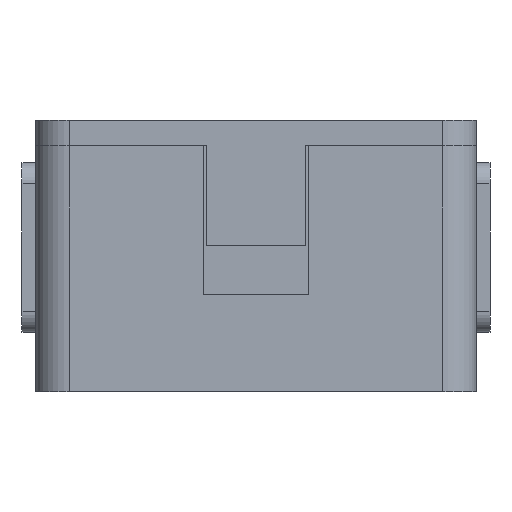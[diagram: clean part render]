
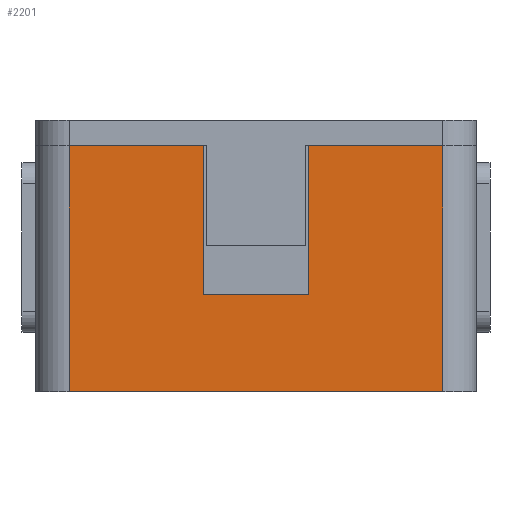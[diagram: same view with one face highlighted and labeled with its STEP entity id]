
A CAD part, left-side view. The second image highlights one B-rep face of the part: STEP entity #2201.
In plain terms, the highlighted planar face has unit normal (-1, 0, 0).
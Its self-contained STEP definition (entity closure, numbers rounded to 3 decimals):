
#82 = PLANE('',#83);
#83 = AXIS2_PLACEMENT_3D('',#84,#85,#86);
#84 = CARTESIAN_POINT('',(0.,0.,0.));
#85 = DIRECTION('',(0.,0.,1.));
#86 = DIRECTION('',(1.,0.,-0.));
#110 = CYLINDRICAL_SURFACE('',#111,4.);
#111 = AXIS2_PLACEMENT_3D('',#112,#113,#114);
#112 = CARTESIAN_POINT('',(-27.,-22.,0.));
#113 = DIRECTION('',(0.,0.,1.));
#114 = DIRECTION('',(0.,-1.,0.));
#138 = PLANE('',#139);
#139 = AXIS2_PLACEMENT_3D('',#140,#141,#142);
#140 = CARTESIAN_POINT('',(0.,0.,29.));
#141 = DIRECTION('',(0.,0.,1.));
#142 = DIRECTION('',(1.,0.,-0.));
#586 = VERTEX_POINT('',#587);
#587 = CARTESIAN_POINT('',(-31.,22.,0.));
#602 = CYLINDRICAL_SURFACE('',#603,4.);
#603 = AXIS2_PLACEMENT_3D('',#604,#605,#606);
#604 = CARTESIAN_POINT('',(-27.,22.,0.));
#605 = DIRECTION('',(0.,0.,1.));
#606 = DIRECTION('',(-0.,1.,0.));
#614 = EDGE_CURVE('',#586,#615,#617,.T.);
#615 = VERTEX_POINT('',#616);
#616 = CARTESIAN_POINT('',(-31.,-22.,0.));
#617 = SURFACE_CURVE('',#618,(#622,#629),.PCURVE_S1.);
#618 = LINE('',#619,#620);
#619 = CARTESIAN_POINT('',(-31.,26.,0.));
#620 = VECTOR('',#621,1.);
#621 = DIRECTION('',(0.,-1.,0.));
#622 = PCURVE('',#82,#623);
#623 = DEFINITIONAL_REPRESENTATION('',(#624),#628);
#624 = LINE('',#625,#626);
#625 = CARTESIAN_POINT('',(-31.,26.));
#626 = VECTOR('',#627,1.);
#627 = DIRECTION('',(0.,-1.));
#628 = ( GEOMETRIC_REPRESENTATION_CONTEXT(2) 
PARAMETRIC_REPRESENTATION_CONTEXT() REPRESENTATION_CONTEXT('2D SPACE',''
  ) );
#629 = PCURVE('',#630,#635);
#630 = PLANE('',#631);
#631 = AXIS2_PLACEMENT_3D('',#632,#633,#634);
#632 = CARTESIAN_POINT('',(-31.,26.,0.));
#633 = DIRECTION('',(1.,0.,-0.));
#634 = DIRECTION('',(0.,-1.,0.));
#635 = DEFINITIONAL_REPRESENTATION('',(#636),#640);
#636 = LINE('',#637,#638);
#637 = CARTESIAN_POINT('',(0.,0.));
#638 = VECTOR('',#639,1.);
#639 = DIRECTION('',(1.,0.));
#640 = ( GEOMETRIC_REPRESENTATION_CONTEXT(2) 
PARAMETRIC_REPRESENTATION_CONTEXT() REPRESENTATION_CONTEXT('2D SPACE',''
  ) );
#672 = EDGE_CURVE('',#615,#673,#675,.T.);
#673 = VERTEX_POINT('',#674);
#674 = CARTESIAN_POINT('',(-31.,-22.,29.));
#675 = SURFACE_CURVE('',#676,(#680,#687),.PCURVE_S1.);
#676 = LINE('',#677,#678);
#677 = CARTESIAN_POINT('',(-31.,-22.,0.));
#678 = VECTOR('',#679,1.);
#679 = DIRECTION('',(0.,0.,1.));
#680 = PCURVE('',#110,#681);
#681 = DEFINITIONAL_REPRESENTATION('',(#682),#686);
#682 = LINE('',#683,#684);
#683 = CARTESIAN_POINT('',(-1.571,0.));
#684 = VECTOR('',#685,1.);
#685 = DIRECTION('',(-0.,1.));
#686 = ( GEOMETRIC_REPRESENTATION_CONTEXT(2) 
PARAMETRIC_REPRESENTATION_CONTEXT() REPRESENTATION_CONTEXT('2D SPACE',''
  ) );
#687 = PCURVE('',#630,#688);
#688 = DEFINITIONAL_REPRESENTATION('',(#689),#693);
#689 = LINE('',#690,#691);
#690 = CARTESIAN_POINT('',(48.,0.));
#691 = VECTOR('',#692,1.);
#692 = DIRECTION('',(0.,-1.));
#693 = ( GEOMETRIC_REPRESENTATION_CONTEXT(2) 
PARAMETRIC_REPRESENTATION_CONTEXT() REPRESENTATION_CONTEXT('2D SPACE',''
  ) );
#849 = VERTEX_POINT('',#850);
#850 = CARTESIAN_POINT('',(-31.,22.,29.));
#872 = EDGE_CURVE('',#849,#873,#875,.T.);
#873 = VERTEX_POINT('',#874);
#874 = CARTESIAN_POINT('',(-31.,6.2,29.));
#875 = SURFACE_CURVE('',#876,(#880,#887),.PCURVE_S1.);
#876 = LINE('',#877,#878);
#877 = CARTESIAN_POINT('',(-31.,26.,29.));
#878 = VECTOR('',#879,1.);
#879 = DIRECTION('',(0.,-1.,0.));
#880 = PCURVE('',#138,#881);
#881 = DEFINITIONAL_REPRESENTATION('',(#882),#886);
#882 = LINE('',#883,#884);
#883 = CARTESIAN_POINT('',(-31.,26.));
#884 = VECTOR('',#885,1.);
#885 = DIRECTION('',(0.,-1.));
#886 = ( GEOMETRIC_REPRESENTATION_CONTEXT(2) 
PARAMETRIC_REPRESENTATION_CONTEXT() REPRESENTATION_CONTEXT('2D SPACE',''
  ) );
#887 = PCURVE('',#630,#888);
#888 = DEFINITIONAL_REPRESENTATION('',(#889),#893);
#889 = LINE('',#890,#891);
#890 = CARTESIAN_POINT('',(0.,-29.));
#891 = VECTOR('',#892,1.);
#892 = DIRECTION('',(1.,0.));
#893 = ( GEOMETRIC_REPRESENTATION_CONTEXT(2) 
PARAMETRIC_REPRESENTATION_CONTEXT() REPRESENTATION_CONTEXT('2D SPACE',''
  ) );
#911 = PLANE('',#912);
#912 = AXIS2_PLACEMENT_3D('',#913,#914,#915);
#913 = CARTESIAN_POINT('',(-34.,6.2,11.4));
#914 = DIRECTION('',(0.,1.,0.));
#915 = DIRECTION('',(0.,0.,1.));
#1277 = VERTEX_POINT('',#1278);
#1278 = CARTESIAN_POINT('',(-31.,-6.2,29.));
#1292 = PLANE('',#1293);
#1293 = AXIS2_PLACEMENT_3D('',#1294,#1295,#1296);
#1294 = CARTESIAN_POINT('',(-34.,-6.2,11.4));
#1295 = DIRECTION('',(0.,1.,0.));
#1296 = DIRECTION('',(0.,0.,1.));
#1303 = EDGE_CURVE('',#1277,#673,#1304,.T.);
#1304 = SURFACE_CURVE('',#1305,(#1309,#1316),.PCURVE_S1.);
#1305 = LINE('',#1306,#1307);
#1306 = CARTESIAN_POINT('',(-31.,26.,29.));
#1307 = VECTOR('',#1308,1.);
#1308 = DIRECTION('',(0.,-1.,0.));
#1309 = PCURVE('',#138,#1310);
#1310 = DEFINITIONAL_REPRESENTATION('',(#1311),#1315);
#1311 = LINE('',#1312,#1313);
#1312 = CARTESIAN_POINT('',(-31.,26.));
#1313 = VECTOR('',#1314,1.);
#1314 = DIRECTION('',(0.,-1.));
#1315 = ( GEOMETRIC_REPRESENTATION_CONTEXT(2) 
PARAMETRIC_REPRESENTATION_CONTEXT() REPRESENTATION_CONTEXT('2D SPACE',''
  ) );
#1316 = PCURVE('',#630,#1317);
#1317 = DEFINITIONAL_REPRESENTATION('',(#1318),#1322);
#1318 = LINE('',#1319,#1320);
#1319 = CARTESIAN_POINT('',(0.,-29.));
#1320 = VECTOR('',#1321,1.);
#1321 = DIRECTION('',(1.,0.));
#1322 = ( GEOMETRIC_REPRESENTATION_CONTEXT(2) 
PARAMETRIC_REPRESENTATION_CONTEXT() REPRESENTATION_CONTEXT('2D SPACE',''
  ) );
#2201 = ADVANCED_FACE('',(#2202),#630,.F.);
#2202 = FACE_BOUND('',#2203,.F.);
#2203 = EDGE_LOOP('',(#2204,#2205,#2226,#2227,#2248,#2274,#2293,#2294));
#2204 = ORIENTED_EDGE('',*,*,#614,.F.);
#2205 = ORIENTED_EDGE('',*,*,#2206,.T.);
#2206 = EDGE_CURVE('',#586,#849,#2207,.T.);
#2207 = SURFACE_CURVE('',#2208,(#2212,#2219),.PCURVE_S1.);
#2208 = LINE('',#2209,#2210);
#2209 = CARTESIAN_POINT('',(-31.,22.,0.));
#2210 = VECTOR('',#2211,1.);
#2211 = DIRECTION('',(0.,0.,1.));
#2212 = PCURVE('',#630,#2213);
#2213 = DEFINITIONAL_REPRESENTATION('',(#2214),#2218);
#2214 = LINE('',#2215,#2216);
#2215 = CARTESIAN_POINT('',(4.,0.));
#2216 = VECTOR('',#2217,1.);
#2217 = DIRECTION('',(0.,-1.));
#2218 = ( GEOMETRIC_REPRESENTATION_CONTEXT(2) 
PARAMETRIC_REPRESENTATION_CONTEXT() REPRESENTATION_CONTEXT('2D SPACE',''
  ) );
#2219 = PCURVE('',#602,#2220);
#2220 = DEFINITIONAL_REPRESENTATION('',(#2221),#2225);
#2221 = LINE('',#2222,#2223);
#2222 = CARTESIAN_POINT('',(1.571,0.));
#2223 = VECTOR('',#2224,1.);
#2224 = DIRECTION('',(0.,1.));
#2225 = ( GEOMETRIC_REPRESENTATION_CONTEXT(2) 
PARAMETRIC_REPRESENTATION_CONTEXT() REPRESENTATION_CONTEXT('2D SPACE',''
  ) );
#2226 = ORIENTED_EDGE('',*,*,#872,.T.);
#2227 = ORIENTED_EDGE('',*,*,#2228,.F.);
#2228 = EDGE_CURVE('',#2229,#873,#2231,.T.);
#2229 = VERTEX_POINT('',#2230);
#2230 = CARTESIAN_POINT('',(-31.,6.2,11.4));
#2231 = SURFACE_CURVE('',#2232,(#2236,#2242),.PCURVE_S1.);
#2232 = LINE('',#2233,#2234);
#2233 = CARTESIAN_POINT('',(-31.,6.2,5.7));
#2234 = VECTOR('',#2235,1.);
#2235 = DIRECTION('',(0.,-0.,1.));
#2236 = PCURVE('',#630,#2237);
#2237 = DEFINITIONAL_REPRESENTATION('',(#2238),#2241);
#2238 = B_SPLINE_CURVE_WITH_KNOTS('',1,(#2239,#2240),.UNSPECIFIED.,.F.,
  .F.,(2,2),(5.7,23.3),.PIECEWISE_BEZIER_KNOTS.);
#2239 = CARTESIAN_POINT('',(19.8,-11.4));
#2240 = CARTESIAN_POINT('',(19.8,-29.));
#2241 = ( GEOMETRIC_REPRESENTATION_CONTEXT(2) 
PARAMETRIC_REPRESENTATION_CONTEXT() REPRESENTATION_CONTEXT('2D SPACE',''
  ) );
#2242 = PCURVE('',#911,#2243);
#2243 = DEFINITIONAL_REPRESENTATION('',(#2244),#2247);
#2244 = B_SPLINE_CURVE_WITH_KNOTS('',1,(#2245,#2246),.UNSPECIFIED.,.F.,
  .F.,(2,2),(5.7,23.3),.PIECEWISE_BEZIER_KNOTS.);
#2245 = CARTESIAN_POINT('',(0.,3.));
#2246 = CARTESIAN_POINT('',(17.6,3.));
#2247 = ( GEOMETRIC_REPRESENTATION_CONTEXT(2) 
PARAMETRIC_REPRESENTATION_CONTEXT() REPRESENTATION_CONTEXT('2D SPACE',''
  ) );
#2248 = ORIENTED_EDGE('',*,*,#2249,.T.);
#2249 = EDGE_CURVE('',#2229,#2250,#2252,.T.);
#2250 = VERTEX_POINT('',#2251);
#2251 = CARTESIAN_POINT('',(-31.,-6.2,11.4));
#2252 = SURFACE_CURVE('',#2253,(#2257,#2263),.PCURVE_S1.);
#2253 = LINE('',#2254,#2255);
#2254 = CARTESIAN_POINT('',(-31.,9.9,11.4));
#2255 = VECTOR('',#2256,1.);
#2256 = DIRECTION('',(0.,-1.,0.));
#2257 = PCURVE('',#630,#2258);
#2258 = DEFINITIONAL_REPRESENTATION('',(#2259),#2262);
#2259 = B_SPLINE_CURVE_WITH_KNOTS('',1,(#2260,#2261),.UNSPECIFIED.,.F.,
  .F.,(2,2),(3.7,16.1),.PIECEWISE_BEZIER_KNOTS.);
#2260 = CARTESIAN_POINT('',(19.8,-11.4));
#2261 = CARTESIAN_POINT('',(32.2,-11.4));
#2262 = ( GEOMETRIC_REPRESENTATION_CONTEXT(2) 
PARAMETRIC_REPRESENTATION_CONTEXT() REPRESENTATION_CONTEXT('2D SPACE',''
  ) );
#2263 = PCURVE('',#2264,#2269);
#2264 = PLANE('',#2265);
#2265 = AXIS2_PLACEMENT_3D('',#2266,#2267,#2268);
#2266 = CARTESIAN_POINT('',(-34.,-6.2,11.4));
#2267 = DIRECTION('',(0.,0.,1.));
#2268 = DIRECTION('',(1.,0.,0.));
#2269 = DEFINITIONAL_REPRESENTATION('',(#2270),#2273);
#2270 = B_SPLINE_CURVE_WITH_KNOTS('',1,(#2271,#2272),.UNSPECIFIED.,.F.,
  .F.,(2,2),(3.7,16.1),.PIECEWISE_BEZIER_KNOTS.);
#2271 = CARTESIAN_POINT('',(3.,12.4));
#2272 = CARTESIAN_POINT('',(3.,0.));
#2273 = ( GEOMETRIC_REPRESENTATION_CONTEXT(2) 
PARAMETRIC_REPRESENTATION_CONTEXT() REPRESENTATION_CONTEXT('2D SPACE',''
  ) );
#2274 = ORIENTED_EDGE('',*,*,#2275,.T.);
#2275 = EDGE_CURVE('',#2250,#1277,#2276,.T.);
#2276 = SURFACE_CURVE('',#2277,(#2281,#2287),.PCURVE_S1.);
#2277 = LINE('',#2278,#2279);
#2278 = CARTESIAN_POINT('',(-31.,-6.2,5.7));
#2279 = VECTOR('',#2280,1.);
#2280 = DIRECTION('',(0.,-0.,1.));
#2281 = PCURVE('',#630,#2282);
#2282 = DEFINITIONAL_REPRESENTATION('',(#2283),#2286);
#2283 = B_SPLINE_CURVE_WITH_KNOTS('',1,(#2284,#2285),.UNSPECIFIED.,.F.,
  .F.,(2,2),(5.7,23.3),.PIECEWISE_BEZIER_KNOTS.);
#2284 = CARTESIAN_POINT('',(32.2,-11.4));
#2285 = CARTESIAN_POINT('',(32.2,-29.));
#2286 = ( GEOMETRIC_REPRESENTATION_CONTEXT(2) 
PARAMETRIC_REPRESENTATION_CONTEXT() REPRESENTATION_CONTEXT('2D SPACE',''
  ) );
#2287 = PCURVE('',#1292,#2288);
#2288 = DEFINITIONAL_REPRESENTATION('',(#2289),#2292);
#2289 = B_SPLINE_CURVE_WITH_KNOTS('',1,(#2290,#2291),.UNSPECIFIED.,.F.,
  .F.,(2,2),(5.7,23.3),.PIECEWISE_BEZIER_KNOTS.);
#2290 = CARTESIAN_POINT('',(0.,3.));
#2291 = CARTESIAN_POINT('',(17.6,3.));
#2292 = ( GEOMETRIC_REPRESENTATION_CONTEXT(2) 
PARAMETRIC_REPRESENTATION_CONTEXT() REPRESENTATION_CONTEXT('2D SPACE',''
  ) );
#2293 = ORIENTED_EDGE('',*,*,#1303,.T.);
#2294 = ORIENTED_EDGE('',*,*,#672,.F.);
